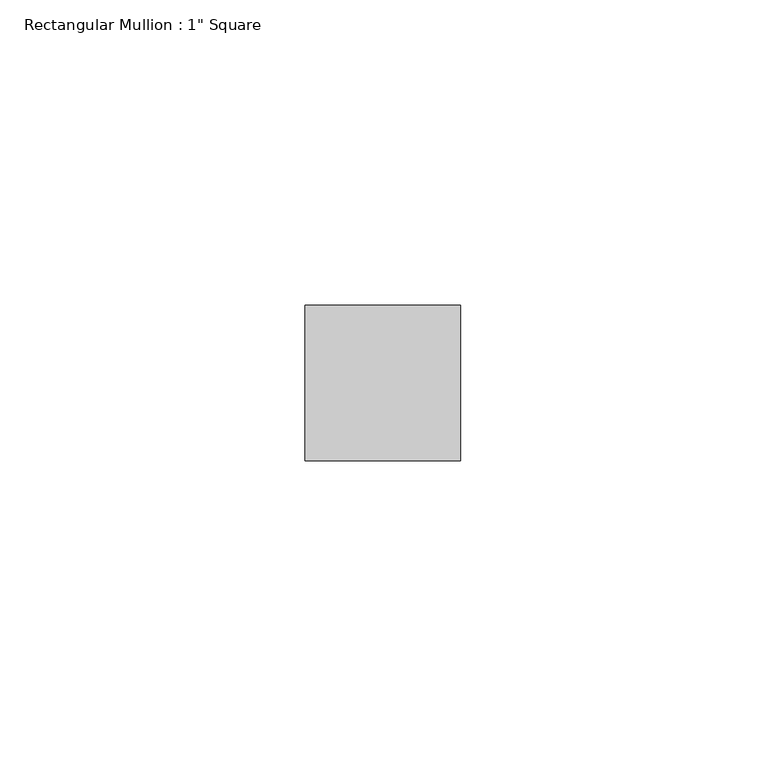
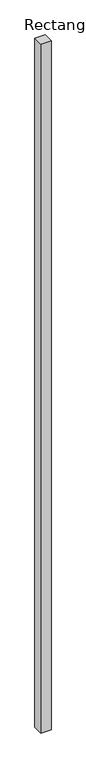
"""IFC4 building model written with IfcOpenShell, lengths in millimetres: member geometry."""

from ifc_helpers import new_model, si_unit, frame, origin, place, context, project, spatial, polyline, outline, extrude, source, transform, mapped, element, save


def member_f3435ee7(model_context):
    return source(origin(), model_context, "Body", "SweptSolid", [
        extrude(outline(polyline([(0.0, 12.7), (0.0, -12.7), (-25.4, -12.7), (-25.4, 12.7), (0.0, 12.7)])), frame((0.0, 0.0, -1804.6), z_axis=(0.0, 0.0, 1.0), x_axis=(1.0, 0.0, 0.0)), (0.0, 0.0, 1.0), 1804.6),
    ])


if __name__ == "__main__":
    model = new_model("IFC4")
    model_context = context("Model", 3, world=origin())
    ifc_project = project(units=[si_unit("LENGTHUNIT", "METRE", prefix="MILLI")], contexts=[model_context])
    site = spatial("IfcSite", under=ifc_project)
    building = spatial("IfcBuilding", under=site)
    placement = place(None, origin())
    member_shape = member_f3435ee7(model_context)
    element("IfcMember", 1, ObjectType="Rectangular Mullion : 1\" Square", at=placement, inside=building, context=model_context, shape_type="MappedRepresentation", body=[
        mapped(member_shape, transform((0.0, 0.0, 0.0), x_axis=(1.0, 0.0, 0.0), y_axis=(0.0, 1.0, 0.0), z_axis=(0.0, 0.0, 1.0))),
    ])
    save(model, "model.ifc")
